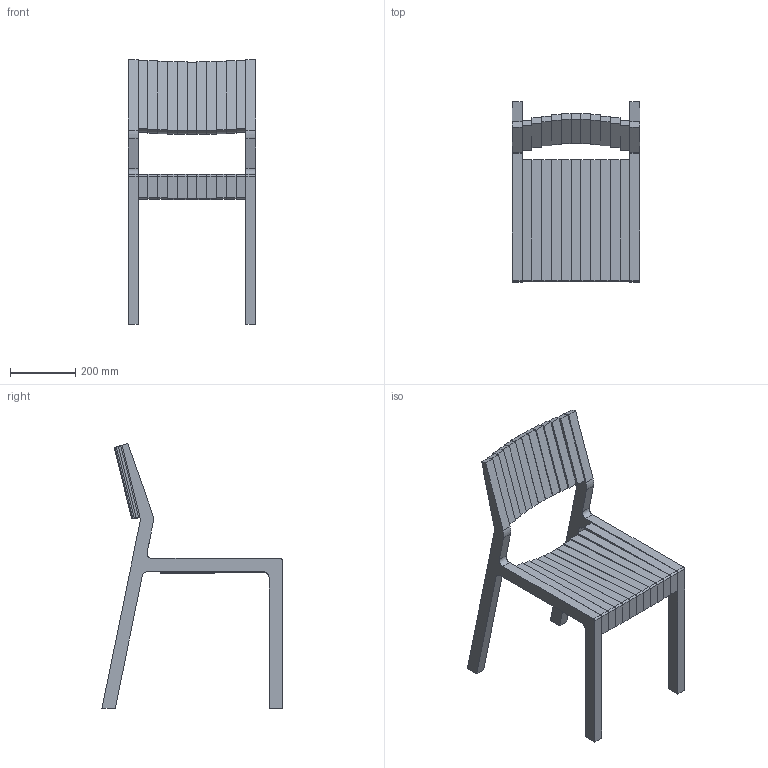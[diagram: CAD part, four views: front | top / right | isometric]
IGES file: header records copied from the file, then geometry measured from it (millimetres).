
Start section: Data from Parasolid IGES Translator 17.0.49, Copyright(c) 2006 Siemens P LM Software. All Rights Reserved.
Global section: file name: TET.igs; native system: By Siemens PLM Incorporated; preprocessor: XPlus GENERIC/IGES 17.0.49; author: Noname; organization: Noname; date: 20170605.170151; units: metre
Bounding box: 390 x 552.85 x 812.07 mm (x, y, z)
Volume: 10361914.4 mm3; surface area: 1343837.2 mm2
Topology: 24 solids, 24 shells, 216 faces, 504 edges, 336 vertices
Faces by surface type: plane 160, cylinder 56
